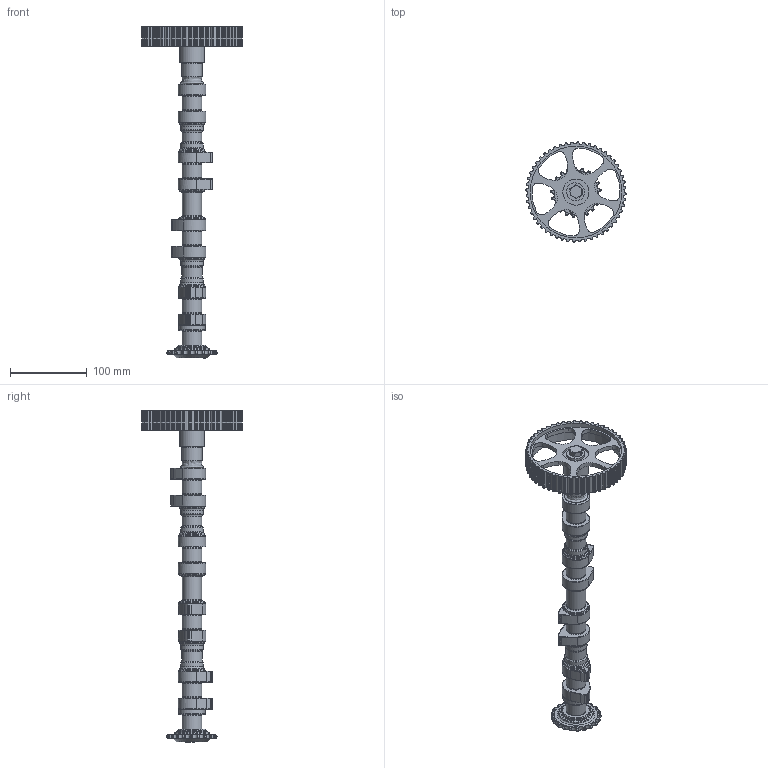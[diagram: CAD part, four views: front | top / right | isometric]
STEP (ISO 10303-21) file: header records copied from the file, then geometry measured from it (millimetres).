
FILE_DESCRIPTION(('STEP AP214'),'1');
FILE_NAME('D:/PROJEKTY/model artura/CAD.stp','2014-12-19T09:35:13',(' '),(' '),'Spatial InterOp 3D',' ',' ');
FILE_SCHEMA(('automotive_design'));
Length unit declared in the file: millimetre
Products named in the file (1): 1
Bounding box: 130.48 x 130.47 x 432.62 mm (x, y, z)
Volume: 317023 mm3; surface area: 117500.8 mm2
Topology: 1 solids, 1 shells, 835 faces, 2202 edges, 1382 vertices
Faces by surface type: bspline 835
Entity records: 39256 total; most frequent: CARTESIAN_POINT 21707, ORIENTED_EDGE 4148, DIRECTION 3132, EDGE_CURVE 2074, VERTEX_POINT 1369, AXIS2_PLACEMENT_3D 1262, CIRCLE 1260, EDGE_LOOP 975
